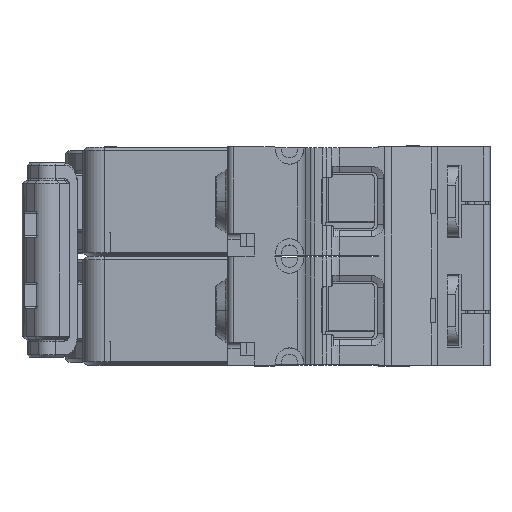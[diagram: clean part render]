
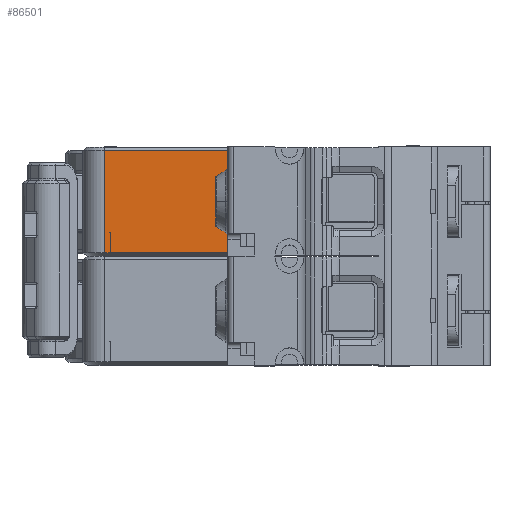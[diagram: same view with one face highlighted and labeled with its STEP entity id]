
A CAD part, top view. The second image highlights one B-rep face of the part: STEP entity #86501.
In plain terms, the highlighted planar face has unit normal (0, 0, 1).
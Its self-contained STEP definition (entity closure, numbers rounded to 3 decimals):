
#2170=DIRECTION('',(0.,1.,0.));
#2171=VECTOR('',#2170,16.6);
#2172=CARTESIAN_POINT('',(9.,18.25,30.));
#2173=LINE('',#2172,#2171);
#2228=DIRECTION('',(0.,1.,0.));
#2229=VECTOR('',#2228,3.3);
#2230=CARTESIAN_POINT('',(-10.,18.25,30.));
#2231=LINE('',#2230,#2229);
#2232=DIRECTION('',(-1.,0.,0.));
#2233=VECTOR('',#2232,0.05);
#2234=CARTESIAN_POINT('',(-10.,21.55,30.));
#2235=LINE('',#2234,#2233);
#2236=DIRECTION('',(-1.,0.,0.));
#2237=VECTOR('',#2236,19.);
#2238=CARTESIAN_POINT('',(9.,18.25,30.));
#2239=LINE('',#2238,#2237);
#2367=DIRECTION('',(0.,1.,0.));
#2368=VECTOR('',#2367,3.3);
#2369=CARTESIAN_POINT('',(-10.05,18.25,30.));
#2370=LINE('',#2369,#2368);
#2378=DIRECTION('',(1.,0.,0.));
#2379=VECTOR('',#2378,0.95);
#2380=CARTESIAN_POINT('',(-11.,18.25,30.));
#2381=LINE('',#2380,#2379);
#34470=DIRECTION('',(-1.,0.,0.));
#34471=VECTOR('',#34470,20.);
#34472=CARTESIAN_POINT('',(9.,34.85,30.));
#34473=LINE('',#34472,#34471);
#34491=DIRECTION('',(0.,-1.,0.));
#34492=VECTOR('',#34491,16.6);
#34493=CARTESIAN_POINT('',(-11.,34.85,
30.));
#34494=LINE('',#34493,#34492);
#76228=CARTESIAN_POINT('',(9.,18.25,30.));
#76229=CARTESIAN_POINT('',(-10.,18.25,30.));
#76230=VERTEX_POINT('',#76228);
#76231=VERTEX_POINT('',#76229);
#80943=CARTESIAN_POINT('',(-11.,34.85,30.));
#80944=VERTEX_POINT('',#80943);
#80946=CARTESIAN_POINT('',(-11.,18.25,30.));
#80948=VERTEX_POINT('',#80946);
#80949=CARTESIAN_POINT('',(-10.05,18.25,
30.));
#80950=VERTEX_POINT('',#80949);
#80951=CARTESIAN_POINT('',(-10.05,21.55,30.));
#80952=VERTEX_POINT('',#80951);
#80993=CARTESIAN_POINT('',(9.,34.85,30.));
#80994=VERTEX_POINT('',#80993);
#83447=CARTESIAN_POINT('',(-10.,21.55,30.));
#83448=VERTEX_POINT('',#83447);
#86479=CARTESIAN_POINT('',(-14.,17.7,30.));
#86480=DIRECTION('',(0.,0.,1.));
#86481=DIRECTION('',(1.,0.,0.));
#86482=AXIS2_PLACEMENT_3D('',#86479,#86480,#86481);
#86483=PLANE('',#86482);
#86485=ORIENTED_EDGE('',*,*,#86484,.T.);
#86487=ORIENTED_EDGE('',*,*,#86486,.T.);
#86489=ORIENTED_EDGE('',*,*,#86488,.F.);
#86491=ORIENTED_EDGE('',*,*,#86490,.F.);
#86493=ORIENTED_EDGE('',*,*,#86492,.F.);
#86495=ORIENTED_EDGE('',*,*,#86494,.F.);
#86496=ORIENTED_EDGE('',*,*,#86415,.F.);
#86498=ORIENTED_EDGE('',*,*,#86497,.T.);
#86499=EDGE_LOOP('',(#86485,#86487,#86489,#86491,#86493,#86495,#86496,#86498));
#86500=FACE_OUTER_BOUND('',#86499,.F.);
#86501=ADVANCED_FACE('',(#86500),#86483,.T.);
#86415=EDGE_CURVE('',#76230,#80994,#2173,.T.);
#86484=EDGE_CURVE('',#76231,#83448,#2231,.T.);
#86486=EDGE_CURVE('',#83448,#80952,#2235,.T.);
#86488=EDGE_CURVE('',#80950,#80952,#2370,.T.);
#86490=EDGE_CURVE('',#80948,#80950,#2381,.T.);
#86492=EDGE_CURVE('',#80944,#80948,#34494,.T.);
#86494=EDGE_CURVE('',#80994,#80944,#34473,.T.);
#86497=EDGE_CURVE('',#76230,#76231,#2239,.T.);
